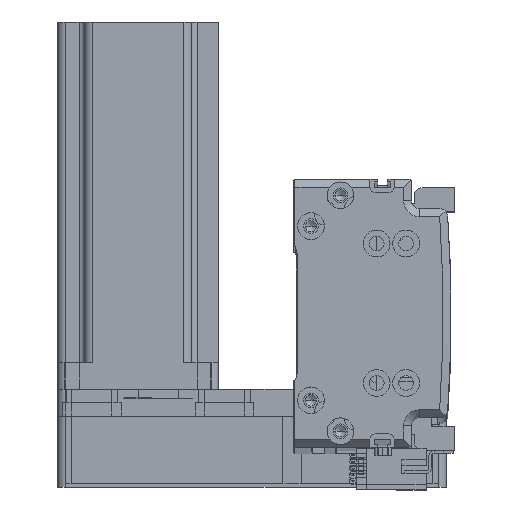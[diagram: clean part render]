
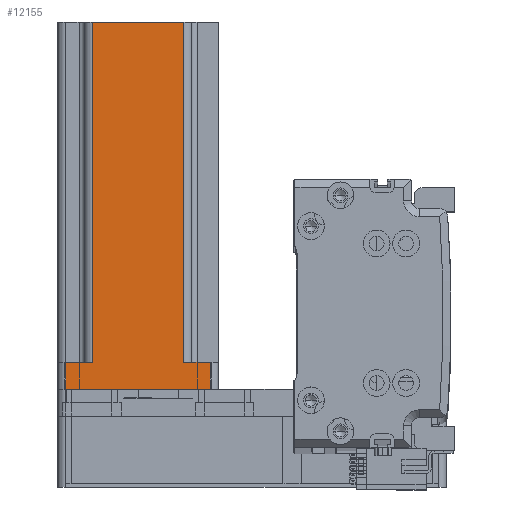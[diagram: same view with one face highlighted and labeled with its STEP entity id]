
A CAD part, top view. The second image highlights one B-rep face of the part: STEP entity #12155.
In plain terms, the highlighted planar face has unit normal (0, 0, 1) as drawn and (0, 1, 0) by its records, which use the part's own axes.
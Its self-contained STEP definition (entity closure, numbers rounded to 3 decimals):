
#427 = VECTOR ( 'NONE', #31467, 1000. ) ;
#1081 = DIRECTION ( 'NONE',  ( 0., 0., 1. ) ) ;
#1211 = CARTESIAN_POINT ( 'NONE',  ( 30., 30., 137. ) ) ;
#3794 = CARTESIAN_POINT ( 'NONE',  ( 30., 30., 137. ) ) ;
#5421 = CARTESIAN_POINT ( 'NONE',  ( 30., 30., 0. ) ) ;
#5635 = DIRECTION ( 'NONE',  ( 1., 0., 0. ) ) ;
#6865 = EDGE_CURVE ( 'NONE', #28240, #32576, #8769, .T. ) ;
#7792 = ORIENTED_EDGE ( 'NONE', *, *, #46412, .T. ) ;
#7858 = VERTEX_POINT ( 'NONE', #51389 ) ;
#7974 = LINE ( 'NONE', #23625, #51830 ) ;
#8632 = EDGE_CURVE ( 'NONE', #43841, #32576, #30003, .T. ) ;
#8769 = LINE ( 'NONE', #3794, #32094 ) ;
#9223 = VERTEX_POINT ( 'NONE', #53272 ) ;
#12155 = ADVANCED_FACE ( 'NONE', ( #14884 ), #27286, .F. ) ;
#12192 = EDGE_CURVE ( 'NONE', #7858, #46363, #7974, .T. ) ;
#12632 = VECTOR ( 'NONE', #1081, 1000. ) ;
#13479 = VECTOR ( 'NONE', #54804, 1000. ) ;
#14113 = VECTOR ( 'NONE', #45431, 1000. ) ;
#14134 = CARTESIAN_POINT ( 'NONE',  ( -27., 30., 137. ) ) ;
#14884 = FACE_OUTER_BOUND ( 'NONE', #27485, .T. ) ;
#15839 = AXIS2_PLACEMENT_3D ( 'NONE', #1211, #31863, #5635 ) ;
#16035 = ORIENTED_EDGE ( 'NONE', *, *, #17513, .T. ) ;
#17513 = EDGE_CURVE ( 'NONE', #9223, #43841, #36805, .T. ) ;
#17579 = LINE ( 'NONE', #5421, #427 ) ;
#18304 = VERTEX_POINT ( 'NONE', #56481 ) ;
#21683 = ORIENTED_EDGE ( 'NONE', *, *, #8632, .T. ) ;
#23601 = CARTESIAN_POINT ( 'NONE',  ( 17., 30., 10. ) ) ;
#23625 = CARTESIAN_POINT ( 'NONE',  ( 20., 30., 10. ) ) ;
#24150 = CARTESIAN_POINT ( 'NONE',  ( -20., 30., 10. ) ) ;
#24300 = LINE ( 'NONE', #14134, #12632 ) ;
#25523 = ORIENTED_EDGE ( 'NONE', *, *, #44798, .T. ) ;
#26693 = EDGE_CURVE ( 'NONE', #33039, #9223, #24300, .T. ) ;
#27117 = LINE ( 'NONE', #54444, #14113 ) ;
#27286 = PLANE ( 'NONE',  #15839 ) ;
#27485 = EDGE_LOOP ( 'NONE', ( #16035, #21683, #41259, #43969, #39537, #7792, #25523, #32698 ) ) ;
#28240 = VERTEX_POINT ( 'NONE', #39192 ) ;
#29041 = DIRECTION ( 'NONE',  ( 0., 0., 1. ) ) ;
#29514 = CARTESIAN_POINT ( 'NONE',  ( -17., 30., 137. ) ) ;
#30003 = LINE ( 'NONE', #42066, #38902 ) ;
#31467 = DIRECTION ( 'NONE',  ( -1., 0., 0. ) ) ;
#31863 = DIRECTION ( 'NONE',  ( 0., -1., 0. ) ) ;
#32094 = VECTOR ( 'NONE', #56270, 1000. ) ;
#32576 = VERTEX_POINT ( 'NONE', #29514 ) ;
#32698 = ORIENTED_EDGE ( 'NONE', *, *, #26693, .T. ) ;
#33039 = VERTEX_POINT ( 'NONE', #53875 ) ;
#34058 = LINE ( 'NONE', #41557, #55965 ) ;
#36805 = LINE ( 'NONE', #24150, #13479 ) ;
#38617 = CARTESIAN_POINT ( 'NONE',  ( -17., 30., 10. ) ) ;
#38902 = VECTOR ( 'NONE', #29041, 1000. ) ;
#39192 = CARTESIAN_POINT ( 'NONE',  ( 17., 30., 137. ) ) ;
#39537 = ORIENTED_EDGE ( 'NONE', *, *, #12192, .F. ) ;
#41259 = ORIENTED_EDGE ( 'NONE', *, *, #6865, .F. ) ;
#41557 = CARTESIAN_POINT ( 'NONE',  ( 17., 30., 137. ) ) ;
#42066 = CARTESIAN_POINT ( 'NONE',  ( -17., 30., 137. ) ) ;
#43841 = VERTEX_POINT ( 'NONE', #38617 ) ;
#43969 = ORIENTED_EDGE ( 'NONE', *, *, #49528, .T. ) ;
#44798 = EDGE_CURVE ( 'NONE', #18304, #33039, #17579, .T. ) ;
#45431 = DIRECTION ( 'NONE',  ( 0., 0., -1. ) ) ;
#46170 = DIRECTION ( 'NONE',  ( 0., 0., -1. ) ) ;
#46363 = VERTEX_POINT ( 'NONE', #23601 ) ;
#46412 = EDGE_CURVE ( 'NONE', #7858, #18304, #27117, .T. ) ;
#49528 = EDGE_CURVE ( 'NONE', #28240, #46363, #34058, .T. ) ;
#49873 = DIRECTION ( 'NONE',  ( -1., 0., 0. ) ) ;
#51389 = CARTESIAN_POINT ( 'NONE',  ( 27., 30., 10. ) ) ;
#51830 = VECTOR ( 'NONE', #49873, 1000. ) ;
#53272 = CARTESIAN_POINT ( 'NONE',  ( -27., 30., 10. ) ) ;
#53875 = CARTESIAN_POINT ( 'NONE',  ( -27., 30., 0. ) ) ;
#54444 = CARTESIAN_POINT ( 'NONE',  ( 27., 30., 137. ) ) ;
#54804 = DIRECTION ( 'NONE',  ( 1., 0., 0. ) ) ;
#55965 = VECTOR ( 'NONE', #46170, 1000. ) ;
#56270 = DIRECTION ( 'NONE',  ( -1., 0., 0. ) ) ;
#56481 = CARTESIAN_POINT ( 'NONE',  ( 27., 30., 0. ) ) ;
